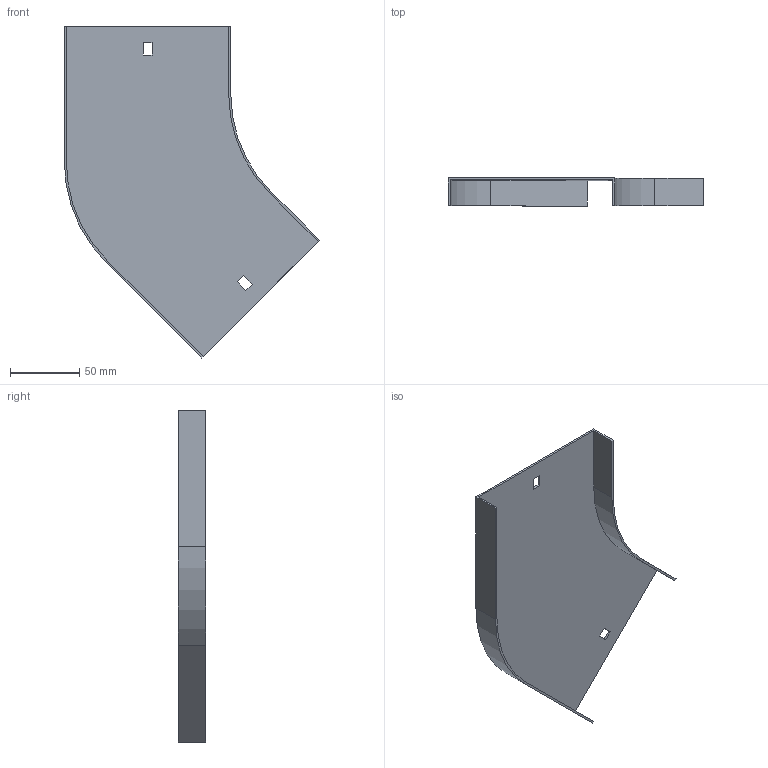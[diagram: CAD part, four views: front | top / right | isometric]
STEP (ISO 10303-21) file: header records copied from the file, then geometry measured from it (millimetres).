
FILE_DESCRIPTION (( 'STEP AP214' ), '1' );
FILE_NAME ('11N1R117.step', '2025-02-21T09:20:55', ( '' ), ( '' ), 'SwSTEP 2.0', 'SolidWorks 2023', '' );
FILE_SCHEMA (( 'AUTOMOTIVE_DESIGN' ));
Length unit declared in the file: millimetre
Products named in the file (1): 11N1R117
Bounding box: 184.71 x 20 x 240.21 mm (x, y, z)
Volume: 54261.2 mm3; surface area: 73595.4 mm2
Topology: 1 solids, 1 shells, 26 faces, 72 edges, 48 vertices
Faces by surface type: plane 22, cylinder 4
Entity records: 855 total; most frequent: CARTESIAN_POINT 147, ORIENTED_EDGE 144, DIRECTION 134, EDGE_CURVE 72, LINE 64, VECTOR 64, VERTEX_POINT 48, AXIS2_PLACEMENT_3D 35
